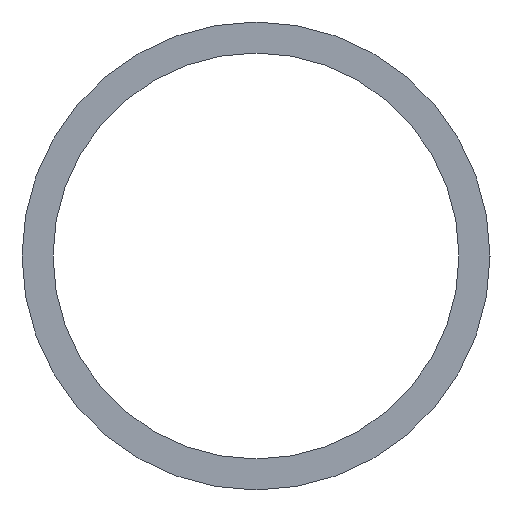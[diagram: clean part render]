
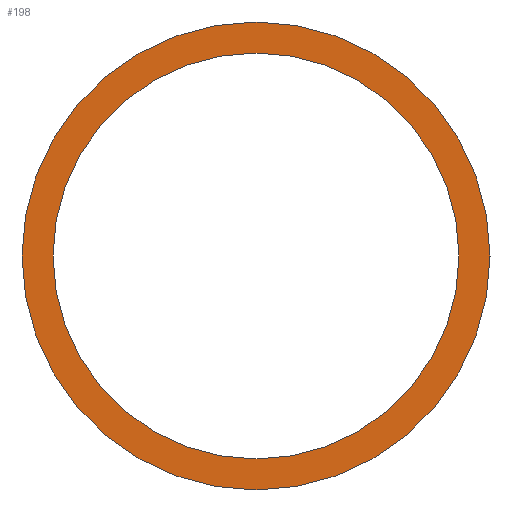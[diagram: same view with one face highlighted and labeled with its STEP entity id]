
A CAD part, left-side view. The second image highlights one B-rep face of the part: STEP entity #198.
In plain terms, the highlighted planar face has unit normal (-1, 0, 0).
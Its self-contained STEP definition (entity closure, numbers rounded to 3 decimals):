
#24 = VERTEX_POINT('',#25);
#25 = CARTESIAN_POINT('',(-200.,2975.85,1000.));
#32 = CYLINDRICAL_SURFACE('',#33,24.15);
#33 = AXIS2_PLACEMENT_3D('',#34,#35,#36);
#34 = CARTESIAN_POINT('',(200.,3000.,1000.));
#35 = DIRECTION('',(1.,0.,0.));
#36 = DIRECTION('',(0.,-1.,0.));
#49 = EDGE_CURVE('',#24,#24,#50,.T.);
#50 = SURFACE_CURVE('',#51,(#56,#62),.PCURVE_S1.);
#51 = CIRCLE('',#52,24.15);
#52 = AXIS2_PLACEMENT_3D('',#53,#54,#55);
#53 = CARTESIAN_POINT('',(-200.,3000.,1000.));
#54 = DIRECTION('',(-1.,0.,0.));
#55 = DIRECTION('',(0.,-1.,0.));
#56 = PCURVE('',#32,#57);
#57 = DEFINITIONAL_REPRESENTATION('',(#58),#61);
#58 = B_SPLINE_CURVE_WITH_KNOTS('',1,(#59,#60),.UNSPECIFIED.,.F.,.F.,(2,
    2),(0.,6.283),.PIECEWISE_BEZIER_KNOTS.);
#59 = CARTESIAN_POINT('',(0.,-400.));
#60 = CARTESIAN_POINT('',(-6.283,-400.));
#61 = ( GEOMETRIC_REPRESENTATION_CONTEXT(2) 
PARAMETRIC_REPRESENTATION_CONTEXT() REPRESENTATION_CONTEXT('2D SPACE',''
  ) );
#62 = PCURVE('',#63,#68);
#63 = PLANE('',#64);
#64 = AXIS2_PLACEMENT_3D('',#65,#66,#67);
#65 = CARTESIAN_POINT('',(-200.,2975.85,1000.));
#66 = DIRECTION('',(1.,0.,0.));
#67 = DIRECTION('',(0.,1.,0.));
#68 = DEFINITIONAL_REPRESENTATION('',(#69),#77);
#69 = ( BOUNDED_CURVE() B_SPLINE_CURVE(2,(#70,#71,#72,#73,#74,#75,#76),
.UNSPECIFIED.,.F.,.F.) B_SPLINE_CURVE_WITH_KNOTS((1,2,2,2,2,1),(
    -2.094,0.,2.094,4.189,6.283,
8.378),.UNSPECIFIED.) CURVE() GEOMETRIC_REPRESENTATION_ITEM() 
RATIONAL_B_SPLINE_CURVE((1.,0.5,1.,0.5,1.,0.5,1.)) REPRESENTATION_ITEM(
  '') );
#70 = CARTESIAN_POINT('',(0.,0.));
#71 = CARTESIAN_POINT('',(0.,41.829));
#72 = CARTESIAN_POINT('',(36.225,20.915));
#73 = CARTESIAN_POINT('',(72.45,0.));
#74 = CARTESIAN_POINT('',(36.225,-20.915));
#75 = CARTESIAN_POINT('',(0.,-41.829));
#76 = CARTESIAN_POINT('',(0.,0.));
#77 = ( GEOMETRIC_REPRESENTATION_CONTEXT(2) 
PARAMETRIC_REPRESENTATION_CONTEXT() REPRESENTATION_CONTEXT('2D SPACE',''
  ) );
#116 = VERTEX_POINT('',#117);
#117 = CARTESIAN_POINT('',(-200.,2979.05,1000.));
#124 = CYLINDRICAL_SURFACE('',#125,20.95);
#125 = AXIS2_PLACEMENT_3D('',#126,#127,#128);
#126 = CARTESIAN_POINT('',(200.,3000.,1000.));
#127 = DIRECTION('',(1.,0.,0.));
#128 = DIRECTION('',(0.,-1.,0.));
#141 = EDGE_CURVE('',#116,#116,#142,.T.);
#142 = SURFACE_CURVE('',#143,(#148,#154),.PCURVE_S1.);
#143 = CIRCLE('',#144,20.95);
#144 = AXIS2_PLACEMENT_3D('',#145,#146,#147);
#145 = CARTESIAN_POINT('',(-200.,3000.,1000.));
#146 = DIRECTION('',(-1.,0.,0.));
#147 = DIRECTION('',(0.,-1.,0.));
#148 = PCURVE('',#124,#149);
#149 = DEFINITIONAL_REPRESENTATION('',(#150),#153);
#150 = B_SPLINE_CURVE_WITH_KNOTS('',1,(#151,#152),.UNSPECIFIED.,.F.,.F.,
  (2,2),(0.,6.283),.PIECEWISE_BEZIER_KNOTS.);
#151 = CARTESIAN_POINT('',(0.,-400.));
#152 = CARTESIAN_POINT('',(-6.283,-400.));
#153 = ( GEOMETRIC_REPRESENTATION_CONTEXT(2) 
PARAMETRIC_REPRESENTATION_CONTEXT() REPRESENTATION_CONTEXT('2D SPACE',''
  ) );
#154 = PCURVE('',#63,#155);
#155 = DEFINITIONAL_REPRESENTATION('',(#156),#164);
#156 = ( BOUNDED_CURVE() B_SPLINE_CURVE(2,(#157,#158,#159,#160,#161,#162
,#163),.UNSPECIFIED.,.T.,.F.) B_SPLINE_CURVE_WITH_KNOTS((1,2,2,2,2,1),(
    -2.094,0.,2.094,4.189,6.283,
8.378),.UNSPECIFIED.) CURVE() GEOMETRIC_REPRESENTATION_ITEM() 
RATIONAL_B_SPLINE_CURVE((1.,0.5,1.,0.5,1.,0.5,1.)) REPRESENTATION_ITEM(
  '') );
#157 = CARTESIAN_POINT('',(3.2,0.));
#158 = CARTESIAN_POINT('',(3.2,36.286));
#159 = CARTESIAN_POINT('',(34.625,18.143));
#160 = CARTESIAN_POINT('',(66.05,0.));
#161 = CARTESIAN_POINT('',(34.625,-18.143));
#162 = CARTESIAN_POINT('',(3.2,-36.286));
#163 = CARTESIAN_POINT('',(3.2,0.));
#164 = ( GEOMETRIC_REPRESENTATION_CONTEXT(2) 
PARAMETRIC_REPRESENTATION_CONTEXT() REPRESENTATION_CONTEXT('2D SPACE',''
  ) );
#198 = ADVANCED_FACE('',(#199,#202),#63,.F.);
#199 = FACE_BOUND('',#200,.T.);
#200 = EDGE_LOOP('',(#201));
#201 = ORIENTED_EDGE('',*,*,#49,.T.);
#202 = FACE_BOUND('',#203,.F.);
#203 = EDGE_LOOP('',(#204));
#204 = ORIENTED_EDGE('',*,*,#141,.T.);
